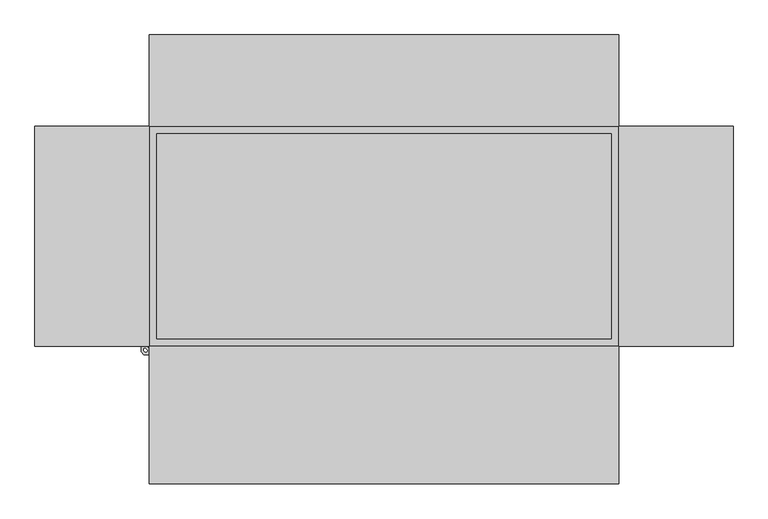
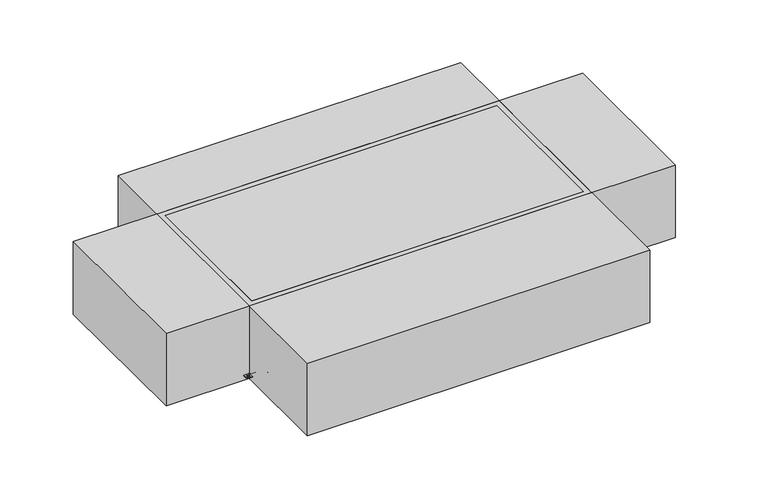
"""IFC4 building model written with IfcOpenShell, lengths in millimetres: proxy geometry, EMC_VEN_CLEVA 2.0_Right_V2 : CLEVA 1500 2.0 Right."""

from ifc_helpers import new_model, si_unit, frame, origin, origin_with_axes, place, context, project, spatial, polyline, circle_curve, ellipse_curve, outline, extrude, faceted_brep, source, transform, mapped, element, save
from ifc_brep_helpers import plane_surface, cylinder_surface, revolved_surface, advanced_brep


def mechanical_equipment_6676021b(model_context):
    return source(origin(), model_context, "Body", "SolidModel", [
        advanced_brep(
        [(-1030.9879885, -365.1499884, 32.4276212), (-1025.0, -365.1499884, 26.4156337), (-1025.0, -365.1499884, 1.8540092), (-1022.9960038, -365.1499884, -0.149987), (-998.0023908, -365.1499884, -0.149987), (-998.0023908, -365.1499884, -3.149981), (-1021.9879811, -365.1499884, -3.149981), (-1027.9999806, -365.1499884, 2.850007), (-1027.999994, -365.1499884, 26.4336329), (-1030.9939883, -365.1499884, 29.4276272), (-1049.1500152, -365.1499884, 29.4276272), (-1049.1500152, -365.1499884, 32.4276212), (-1061.1499912, -377.1499898, 29.4276272), (-1061.1499912, -504.1499898, 29.4276272), (-1061.1499912, -504.1499898, 32.4276212), (-1061.1499912, -377.1499898, 32.4276212), (-910.1500138, -485.9879885, 32.4276212), (-1030.9879885, -485.9879885, 32.4276212), (-1049.1500152, -516.1499912, 32.4276212), (-922.1500152, -516.1499912, 32.4276212), (-910.1500138, -504.1499898, 32.4276212), (-935.6500136, -507.6499948, 32.4276212), (-935.6380141, -495.6500068, 32.4276212), (-930.6619977, -495.6500068, 32.4276212), (-930.6499982, -507.6499948, 32.4276212), (-1044.8972231, -503.4322052, 32.4276212), (-1048.4413867, -499.888067, 32.4276212), (-1039.9515297, -491.4073661, 32.4276212), (-1036.4119618, -494.9469136, 32.4276212), (-1040.6500068, -390.6379887, 32.4276212), (-1052.6499948, -390.6499882, 32.4276212), (-1052.6500082, -385.6499982, 32.4276212), (-1040.6500068, -385.6379987, 32.4276212), (-1025.0, -480.0, 26.4156337), (-1025.0, -480.0, 1.8540092), (-1022.9960038, -477.9960038, -0.149987), (-910.1500138, -477.9960038, -0.149987), (-910.1500138, -453.0023908, -0.149987), (-998.0023908, -453.0023908, -0.149987), (-998.0023908, -453.0023908, -3.149981), (-910.1500138, -453.0023908, -3.149981), (-910.1500138, -476.9879811, -3.149981), (-1021.9879811, -476.9879811, -3.149981), (-1027.9999806, -482.9999806, 2.850007), (-1027.999994, -482.999994, 26.4336329), (-1030.9939883, -485.9939883, 29.4276272), (-910.1500138, -485.9939883, 29.4276272), (-910.1500138, -504.1499898, 29.4276272), (-922.1500152, -516.1499912, 29.4276272), (-1049.1500152, -516.1499912, 29.4276272), (-935.6380141, -495.6500068, 29.4276272), (-935.6500136, -507.6499948, 29.4276272), (-930.6499982, -507.6500082, 29.4276272), (-930.6619977, -495.6500068, 29.4276272), (-1048.4413867, -499.888067, 29.4276272), (-1044.8972231, -503.4322052, 29.4276272), (-1036.4119618, -494.9469136, 29.4276272), (-1039.9515195, -491.4073559, 29.4276272), (-1052.6499948, -390.6499882, 29.4276272), (-1040.6500068, -390.6379887, 29.4276272), (-1040.6500068, -385.6379987, 29.4276272), (-1052.6499948, -385.6499982, 29.4276272), (-910.1500138, -480.0, 1.8540092), (-910.1500138, -480.0, 26.4156337), (-910.1500138, -482.999994, 26.4336329), (-910.1500138, -482.999994, 2.850007)],
        [
            (0, 1, circle_curve(frame((-1030.999988, -365.1499884, 26.4276332), z_axis=(0.0, 1.0, 0.0), x_axis=(1.0, 0.0, 0.0)), 6.0)),
            (1, 2),
            (2, 3, circle_curve(frame((-1023.000004, -365.1499884, 1.850009), z_axis=(0.0, -1.0, 0.0), x_axis=(1.0, 0.0, 0.0)), 2.0)),
            (3, 4),
            (4, 5),
            (5, 6),
            (6, 7, circle_curve(frame((-1021.9999806, -365.1499884, 2.850007), z_axis=(0.0, 1.0, 0.0), x_axis=(1.0, 0.0, 0.0)), 6.0)),
            (7, 8),
            (8, 9, circle_curve(frame((-1030.999988, -365.1499884, 26.4276332), z_axis=(0.0, -1.0, 0.0), x_axis=(1.0, 0.0, 0.0)), 3.0)),
            (9, 10),
            (10, 11),
            (11, 0),
            (12, 13),
            (13, 14),
            (14, 15),
            (15, 12),
            (16, 17),
            (17, 0),
            (11, 15),
            (14, 18),
            (18, 19),
            (19, 20),
            (20, 16),
            (21, 22, circle_curve(frame((-935.6500136, -501.6499948, 32.4276212), z_axis=(0.0, 0.0, -1.0), x_axis=(1.0, 0.0, 0.0)), 6.0)),
            (22, 23),
            (23, 24, circle_curve(frame((-930.6499982, -501.6499948, 32.4276212), z_axis=(0.0, 0.0, -1.0), x_axis=(1.0, 0.0, 0.0)), 6.0)),
            (24, 21),
            (25, 26),
            (26, 27, circle_curve(frame((-1044.1941704, -495.6500068, 32.4276212), z_axis=(0.0, 0.0, -1.0), x_axis=(1.0, 0.0, 0.0)), 6.0)),
            (27, 28),
            (28, 25, circle_curve(frame((-1040.6500068, -499.194145, 32.4276212), z_axis=(0.0, 0.0, -1.0), x_axis=(1.0, 0.0, 0.0)), 6.0)),
            (29, 30, circle_curve(frame((-1046.6499948, -390.6499882, 32.4276212), z_axis=(0.0, 0.0, -1.0), x_axis=(1.0, 0.0, 0.0)), 6.0)),
            (30, 31),
            (31, 32, circle_curve(frame((-1046.6499948, -385.6499982, 32.4276212), z_axis=(0.0, 0.0, -1.0), x_axis=(1.0, 0.0, 0.0)), 6.0)),
            (32, 29),
            (17, 33, ellipse_curve(frame((-1030.999988, -485.999988, 26.4276332), z_axis=(-0.7071067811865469, 0.707106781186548, 0.0), x_axis=(0.7071067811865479, 0.7071067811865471, 0.0)), 8.4852814, 6.0)),
            (33, 1),
            (33, 34),
            (34, 2),
            (34, 35, ellipse_curve(frame((-1023.000004, -478.000004, 1.850009), z_axis=(0.7071067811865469, -0.707106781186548, 0.0), x_axis=(-0.7071067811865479, -0.7071067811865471, 0.0)), 2.8284271, 2.0)),
            (35, 3),
            (35, 36),
            (36, 37),
            (37, 38),
            (38, 4),
            (38, 39),
            (39, 5),
            (39, 40),
            (40, 41),
            (41, 42),
            (42, 6),
            (42, 43, ellipse_curve(frame((-1021.9999806, -476.9999806, 2.850007), z_axis=(-0.7071067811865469, 0.707106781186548, 0.0), x_axis=(0.7071067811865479, 0.7071067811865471, 0.0)), 8.4852814, 6.0)),
            (43, 7),
            (43, 44),
            (44, 8),
            (44, 45, ellipse_curve(frame((-1030.999988, -485.999988, 26.4276332), z_axis=(0.7071067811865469, -0.707106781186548, 0.0), x_axis=(-0.7071067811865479, -0.7071067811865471, 0.0)), 4.2426407, 3.0)),
            (45, 9),
            (45, 46),
            (46, 47),
            (47, 48),
            (48, 49),
            (49, 13),
            (12, 10),
            (50, 51, circle_curve(frame((-935.6500136, -501.6499948, 29.4276272), z_axis=(0.0, 0.0, 1.0), x_axis=(1.0, 0.0, 0.0)), 6.0)),
            (51, 52),
            (52, 53, circle_curve(frame((-930.6499982, -501.6499948, 29.4276272), z_axis=(0.0, 0.0, 1.0), x_axis=(1.0, 0.0, 0.0)), 6.0)),
            (53, 50),
            (54, 55),
            (55, 56, circle_curve(frame((-1040.6500068, -499.194145, 29.4276272), z_axis=(0.0, 0.0, 1.0), x_axis=(1.0, 0.0, 0.0)), 6.0)),
            (56, 57),
            (57, 54, circle_curve(frame((-1044.1941704, -495.6500068, 29.4276272), z_axis=(0.0, 0.0, 1.0), x_axis=(1.0, 0.0, 0.0)), 6.0)),
            (58, 59, circle_curve(frame((-1046.6499948, -390.6499882, 29.4276272), z_axis=(0.0, 0.0, 1.0), x_axis=(1.0, 0.0, 0.0)), 6.0)),
            (59, 60),
            (60, 61, circle_curve(frame((-1046.6499948, -385.6499982, 29.4276272), z_axis=(0.0, 0.0, 1.0), x_axis=(1.0, 0.0, 0.0)), 6.0)),
            (61, 58),
            (36, 62, circle_curve(frame((-910.1500138, -478.000004, 1.850009), z_axis=(-1.0, 0.0, 0.0), x_axis=(0.0, 1.0, 0.0)), 2.0)),
            (62, 63),
            (63, 16, circle_curve(frame((-910.1500138, -485.999988, 26.4276332), z_axis=(1.0, 0.0, 0.0), x_axis=(0.0, 1.0, 0.0)), 6.0)),
            (20, 47),
            (46, 64, circle_curve(frame((-910.1500138, -485.999988, 26.4276332), z_axis=(-1.0, 0.0, 0.0), x_axis=(0.0, 1.0, 0.0)), 3.0)),
            (64, 65),
            (65, 41, circle_curve(frame((-910.1500138, -476.9999806, 2.850007), z_axis=(1.0, 0.0, 0.0), x_axis=(0.0, 1.0, 0.0)), 6.0)),
            (40, 37),
            (18, 49),
            (48, 19),
            (63, 33),
            (62, 34),
            (65, 43),
            (64, 44),
            (50, 22),
            (21, 51),
            (24, 52),
            (23, 53),
            (54, 26),
            (25, 55),
            (28, 56),
            (27, 57),
            (58, 30),
            (29, 59),
            (32, 60),
            (31, 61),
        ],
        [
            plane_surface(frame((-1025.0, -365.1499884, 0.0), z_axis=(0.0, 1.0, 0.0), x_axis=(0.0, 0.0, 1.0))),
            plane_surface(frame((-1061.1499912, -365.1499884, 29.4276272), z_axis=(-1.0, 0.0, 0.0), x_axis=(0.0, -1.0, 0.0))),
            plane_surface(frame((-1061.1499912, -365.1499884, 32.4276212), z_axis=(0.0, 0.0, 1.0), x_axis=(0.0, -1.0, 0.0))),
            cylinder_surface(frame((-1030.999988, -365.1499884, 26.4276332), z_axis=(0.0, 1.0, 0.0), x_axis=(1.0, 0.0, 0.0)), 6.0),
            plane_surface(frame((-1025.0, -365.1499884, 26.4156337), z_axis=(1.0, 0.0, 0.0), x_axis=(0.0, -1.0, 0.0))),
            revolved_surface(polyline([(-1021.000004, -480.00000398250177, 1.850009), (-1021.000004, -365.1499884, 1.850009)]), (-1023.000004, -365.1499884, 1.850009), (0.0, -1.0, 0.0)),
            plane_surface(frame((-1022.9960038, -365.1499884, -0.149987), z_axis=(0.0, 0.0, 1.0), x_axis=(0.0, -1.0, 0.0))),
            plane_surface(frame((-998.0023908, -365.1499884, -0.149987), z_axis=(1.0, 0.0, 0.0), x_axis=(0.0, -1.0, 0.0))),
            plane_surface(frame((-998.0023908, -365.1499884, -3.149981), z_axis=(0.0, 0.0, -1.0), x_axis=(0.0, -1.0, 0.0))),
            cylinder_surface(frame((-1021.9999806, -365.1499884, 2.850007), z_axis=(0.0, 1.0, 0.0), x_axis=(1.0, 0.0, 0.0)), 6.0),
            plane_surface(frame((-1027.999994, -365.1499884, 2.850007), z_axis=(-1.0, 0.0, 0.0), x_axis=(0.0, -1.0, 0.0))),
            revolved_surface(polyline([(-1027.999988, -488.999988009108, 26.4276332), (-1027.999988, -365.1499884, 26.4276332)]), (-1030.999988, -365.1499884, 26.4276332), (0.0, -1.0, 0.0)),
            plane_surface(frame((-1030.9939883, -365.1499884, 29.4276272), z_axis=(0.0, 0.0, -1.0), x_axis=(0.0, -1.0, 0.0))),
            plane_surface(frame((-910.1500138, -480.0, 0.0), z_axis=(1.0, 0.0, 0.0), x_axis=(0.0, 0.0, 1.0))),
            plane_surface(frame((-1061.1499912, -516.1499912, 29.4276272), z_axis=(0.0, -1.0, 0.0), x_axis=(1.0, 0.0, 0.0))),
            cylinder_surface(frame((-1025.0, -485.999988, 26.4276332), z_axis=(-1.0, 0.0, 0.0), x_axis=(0.0, 1.0, 0.0)), 6.0),
            plane_surface(frame((-1025.0, -480.0, 26.4156337), z_axis=(0.0, 1.0, 0.0), x_axis=(1.0, 0.0, 0.0))),
            revolved_surface(polyline([(-910.1500138, -476.000004, 1.850009), (-1025.0000039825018, -476.000004, 1.850009)]), (-1025.0, -478.000004, 1.850009), (1.0, 0.0, 0.0)),
            plane_surface(frame((-998.0023908, -453.0023908, -0.149987), z_axis=(0.0, 1.0, 0.0), x_axis=(1.0, 0.0, 0.0))),
            cylinder_surface(frame((-1025.0, -476.9999806, 2.850007), z_axis=(-1.0, 0.0, 0.0), x_axis=(0.0, 1.0, 0.0)), 6.0),
            plane_surface(frame((-1027.999994, -482.999994, 2.850007), z_axis=(0.0, -1.0, 0.0), x_axis=(1.0, 0.0, 0.0))),
            revolved_surface(polyline([(-910.1500138, -482.999988, 26.4276332), (-1033.9999880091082, -482.999988, 26.4276332)]), (-1025.0, -485.999988, 26.4276332), (1.0, 0.0, 0.0)),
            plane_surface(frame((-1061.1499912, -377.1499898, 250.0), z_axis=(-0.7071075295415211, 0.7071060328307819, 0.0), x_axis=(0.0, 0.0, -1.0))),
            plane_surface(frame((-898.432152, -492.432128, 250.0), z_axis=(0.7071067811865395, -0.7071067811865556, 0.0), x_axis=(0.0, 0.0, -1.0))),
            plane_surface(frame((-1049.1500152, -516.1499912, 250.0), z_axis=(-0.7071075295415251, -0.7071060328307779, 0.0), x_axis=(0.0, 0.0, -1.0))),
            revolved_surface(polyline([(-929.6500136, -501.6499948, 32.4276212), (-929.6500136, -501.6499948, 29.4276272)]), (-935.6500136, -501.6499948, 0.0), (0.0, 0.0, 1.0)),
            plane_surface(frame((-935.6500136, -507.6500082, 250.0), z_axis=(0.0, 1.0, 0.0), x_axis=(0.0, 0.0, -1.0))),
            revolved_surface(polyline([(-924.6499982, -501.6499948, 32.4276212), (-924.6499982, -501.6499948, 29.4276272)]), (-930.6499982, -501.6499948, 0.0), (0.0, 0.0, 1.0)),
            plane_surface(frame((-930.6619977, -495.6500068, 250.0), z_axis=(0.0, -1.0, 0.0), x_axis=(0.0, 0.0, -1.0))),
            plane_surface(frame((-1048.4413867, -499.888067, 250.0), z_axis=(0.7071042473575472, 0.7071093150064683, 0.0), x_axis=(0.0, 0.0, -1.0))),
            revolved_surface(polyline([(-1034.6500068, -499.194145, 32.4276212), (-1034.6500068, -499.194145, 29.4276272)]), (-1040.6500068, -499.194145, 0.0), (0.0, 0.0, 1.0)),
            plane_surface(frame((-1036.4119618, -494.9469136, 250.0), z_axis=(-0.7071067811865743, -0.7071067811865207, 0.0), x_axis=(0.0, 0.0, -1.0))),
            revolved_surface(polyline([(-1038.1941704, -495.6500068, 32.4276212), (-1038.1941704, -495.6500068, 29.4276272)]), (-1044.1941704, -495.6500068, 0.0), (0.0, 0.0, 1.0)),
            revolved_surface(polyline([(-1040.6499948, -390.6499882, 32.4276212), (-1040.6499948, -390.6499882, 29.4276272)]), (-1046.6499948, -390.6499882, 0.0), (0.0, 0.0, 1.0)),
            plane_surface(frame((-1040.6500068, -390.6379887, 250.0), z_axis=(-1.0, 0.0, 0.0), x_axis=(0.0, 0.0, -1.0))),
            revolved_surface(polyline([(-1040.6499948, -385.6499982, 32.4276212), (-1040.6499948, -385.6499982, 29.4276272)]), (-1046.6499948, -385.6499982, 0.0), (0.0, 0.0, 1.0)),
            plane_surface(frame((-1052.6500082, -385.6499982, 250.0), z_axis=(1.0, 0.0, 0.0), x_axis=(0.0, 0.0, -1.0))),
        ],
        [
            (0, [[1, 2, 3, 4, 5, 6, 7, 8, 9, 10, 11, 12]]),
            (1, [[13, 14, 15, 16]]),
            (2, [[17, 18, -12, 19, -15, 20, 21, 22, 23], [24, 25, 26, 27], [28, 29, 30, 31], [32, 33, 34, 35]]),
            (3, [[-1, -18, 36, 37]]),
            (4, [[-2, -37, 38, 39]]),
            (5, [[-3, -39, 40, 41]]),
            (6, [[-4, -41, 42, 43, 44, 45]]),
            (7, [[-5, -45, 46, 47]]),
            (8, [[-6, -47, 48, 49, 50, 51]]),
            (9, [[-7, -51, 52, 53]]),
            (10, [[-8, -53, 54, 55]]),
            (11, [[-9, -55, 56, 57]]),
            (12, [[-57, 58, 59, 60, 61, 62, -13, 63, -10], [64, 65, 66, 67], [68, 69, 70, 71], [72, 73, 74, 75]]),
            (13, [[-43, 76, 77, 78, -23, 79, -59, 80, 81, 82, -49, 83]]),
            (14, [[-21, 84, -61, 85]]),
            (15, [[-17, -78, 86, -36]]),
            (16, [[-38, -86, -77, 87]]),
            (17, [[-40, -87, -76, -42]]),
            (18, [[-44, -83, -48, -46]]),
            (19, [[-50, -82, 88, -52]]),
            (20, [[-54, -88, -81, 89]]),
            (21, [[-56, -89, -80, -58]]),
            (22, [[-11, -63, -16, -19]]),
            (23, [[-22, -85, -60, -79]]),
            (24, [[-14, -62, -84, -20]]),
            (25, [[90, -24, 91, -64]]),
            (26, [[-91, -27, 92, -65]]),
            (27, [[-92, -26, 93, -66]]),
            (28, [[-90, -67, -93, -25]]),
            (29, [[94, -28, 95, -68]]),
            (30, [[-95, -31, 96, -69]]),
            (31, [[-96, -30, 97, -70]]),
            (32, [[-94, -71, -97, -29]]),
            (33, [[98, -32, 99, -72]]),
            (34, [[-99, -35, 100, -73]]),
            (35, [[-100, -34, 101, -74]]),
            (36, [[-98, -75, -101, -33]]),
        ],
    ),
        extrude(outline(polyline([(1525.0, -480.0), (1025.0, -480.0), (1025.0, 480.0), (1525.0, 480.0), (1525.0, -480.0)])), origin_with_axes(), (0.0, 0.0, 1.0), 460.0),
        extrude(outline(polyline([(-1525.0, 480.0), (-1025.0, 480.0), (-1025.0, -480.0), (-1525.0, -480.0), (-1525.0, 480.0)])), origin_with_axes(), (0.0, 0.0, 1.0), 460.0),
        extrude(outline(polyline([(-1025.0, -1080.0), (-1025.0, -480.0), (1025.0, -480.0), (1025.0, -1080.0), (-1025.0, -1080.0)])), origin_with_axes(), (0.0, 0.0, 1.0), 460.0),
        extrude(outline(polyline([(1025.0, 880.0), (1025.0, 480.0), (-1025.0, 480.0), (-1025.0, 880.0), (1025.0, 880.0)])), origin_with_axes(), (0.0, 0.0, 1.0), 460.0),
        extrude(outline(polyline([(75.5, -480.0), (75.5, -614.0), (-424.5, -614.0), (-424.5, -480.0), (75.5, -480.0)])), frame((0.0, 0.0, 169.0), z_axis=(0.0, 0.0, 1.0), x_axis=(1.0, 0.0, 0.0)), (0.0, 0.0, 1.0), 225.0),
        extrude(outline(polyline([(562.0, -480.0), (562.0, -460.0), (993.0, -460.0), (993.0, -480.0), (562.0, -480.0)])), frame((0.0, 0.0, 31.0), z_axis=(0.0, 0.0, 1.0), x_axis=(1.0, 0.0, 0.0)), (0.0, 0.0, 1.0), 398.0),
        extrude(outline(polyline([(-562.0, -480.0), (-993.0, -480.0), (-993.0, -460.0), (-562.0, -460.0), (-562.0, -480.0)])), frame((0.0, 0.0, 31.0), z_axis=(0.0, 0.0, 1.0), x_axis=(1.0, 0.0, 0.0)), (0.0, 0.0, 1.0), 398.0),
        extrude(outline(polyline([(562.0, 480.0), (993.0, 480.0), (993.0, 460.0), (562.0, 460.0), (562.0, 480.0)])), frame((0.0, 0.0, 31.0), z_axis=(0.0, 0.0, 1.0), x_axis=(1.0, 0.0, 0.0)), (0.0, 0.0, 1.0), 398.0),
        extrude(outline(polyline([(-562.0, 480.0), (-562.0, 460.0), (-993.0, 460.0), (-993.0, 480.0), (-562.0, 480.0)])), frame((0.0, 0.0, 31.0), z_axis=(0.0, 0.0, 1.0), x_axis=(1.0, 0.0, 0.0)), (0.0, 0.0, 1.0), 398.0),
        extrude(outline(polyline([(-1025.0, 17.0), (-1025.0, 448.0), (-1005.0, 448.0), (-1005.0, 17.0), (-1025.0, 17.0)])), frame((0.0, 0.0, 31.0), z_axis=(0.0, 0.0, 1.0), x_axis=(1.0, 0.0, 0.0)), (0.0, 0.0, 1.0), 398.0),
        extrude(outline(polyline([(-1025.0, -17.0), (-1005.0, -17.0), (-1005.0, -448.0), (-1025.0, -448.0), (-1025.0, -17.0)])), frame((0.0, 0.0, 31.0), z_axis=(0.0, 0.0, 1.0), x_axis=(1.0, 0.0, 0.0)), (0.0, 0.0, 1.0), 398.0),
        extrude(outline(polyline([(1025.0, 17.0), (1005.0, 17.0), (1005.0, 448.0), (1025.0, 448.0), (1025.0, 17.0)])), frame((0.0, 0.0, 31.0), z_axis=(0.0, 0.0, 1.0), x_axis=(1.0, 0.0, 0.0)), (0.0, 0.0, 1.0), 398.0),
        extrude(outline(polyline([(1025.0, -17.0), (1025.0, -448.0), (1005.0, -448.0), (1005.0, -17.0), (1025.0, -17.0)])), frame((0.0, 0.0, 31.0), z_axis=(0.0, 0.0, 1.0), x_axis=(1.0, 0.0, 0.0)), (0.0, 0.0, 1.0), 398.0),
        extrude(outline(polyline([(993.0, -448.0), (-993.0, -448.0), (-993.0, 448.0), (993.0, 448.0), (993.0, -448.0)])), frame((0.0, 0.0, 439.5), z_axis=(0.0, 0.0, 1.0), x_axis=(1.0, 0.0, 0.0)), (0.0, 0.0, 1.0), 20.5),
        faceted_brep([(1025.0, 480.0, 460.0), (-1025.0, 480.0, 460.0), (-1025.0, -480.0, 460.0), (1025.0, -480.0, 460.0), (993.0, -448.0, 460.0), (-993.0, -448.0, 460.0), (-993.0, 448.0, 460.0), (993.0, 448.0, 460.0), (-993.0, 448.0, 429.0), (-993.0, 480.0, 429.0), (-562.0, 480.0, 429.0), (-562.0, 448.0, 429.0), (993.0, 480.0, 429.0), (993.0, 448.0, 429.0), (562.0, 448.0, 429.0), (562.0, 480.0, 429.0), (-993.0, -480.0, 429.0), (-993.0, -448.0, 429.0), (-562.0, -448.0, 429.0), (-562.0, -480.0, 429.0), (993.0, -448.0, 429.0), (993.0, -480.0, 429.0), (562.0, -480.0, 429.0), (562.0, -448.0, 429.0), (1025.0, -17.0, 429.0), (1025.0, -448.0, 429.0), (993.0, -17.0, 429.0), (1025.0, 448.0, 429.0), (1025.0, 17.0, 429.0), (993.0, 17.0, 429.0), (-1025.0, 17.0, 429.0), (-1025.0, 448.0, 429.0), (-993.0, 17.0, 429.0), (-1025.0, -448.0, 429.0), (-1025.0, -17.0, 429.0), (-993.0, -17.0, 429.0), (560.0, 448.0, 429.0), (-560.0, 448.0, 429.0), (-560.0, 480.0, 429.0), (560.0, 480.0, 429.0), (-560.0, -448.0, 429.0), (560.0, -448.0, 429.0), (560.0, -480.0, 429.0), (-560.0, -480.0, 429.0), (1025.0, 480.0, 0.0), (-1025.0, 480.0, 0.0), (562.0, 480.0, 31.0), (993.0, 480.0, 31.0), (-560.0, 480.0, 31.0), (560.0, 480.0, 31.0), (-993.0, 480.0, 31.0), (-562.0, 480.0, 31.0), (-1025.0, -480.0, 0.0), (-1025.0, -448.0, 31.0), (-1025.0, -17.0, 31.0), (-1025.0, 448.0, 31.0), (-1025.0, 17.0, 31.0), (1025.0, -480.0, 0.0), (-562.0, -480.0, 31.0), (-993.0, -480.0, 31.0), (560.0, -480.0, 31.0), (-560.0, -480.0, 31.0), (993.0, -480.0, 31.0), (562.0, -480.0, 31.0), (1025.0, 448.0, 31.0), (1025.0, 17.0, 31.0), (1025.0, -448.0, 31.0), (1025.0, -17.0, 31.0), (562.0, -448.0, 31.0), (993.0, -448.0, 31.0), (993.0, -448.0, 0.0), (-993.0, -448.0, 0.0), (-993.0, -448.0, 31.0), (-562.0, -448.0, 31.0), (-560.0, -448.0, 31.0), (560.0, -448.0, 31.0), (-993.0, -17.0, 31.0), (-993.0, 448.0, 0.0), (-993.0, 448.0, 31.0), (-993.0, 17.0, 31.0), (-562.0, 448.0, 31.0), (993.0, 448.0, 0.0), (993.0, 448.0, 31.0), (562.0, 448.0, 31.0), (560.0, 448.0, 31.0), (-560.0, 448.0, 31.0), (993.0, 17.0, 31.0), (993.0, -17.0, 31.0)], [[[0, 1, 2, 3], [4, 5, 6, 7]], [[8, 9, 10, 11]], [[12, 13, 14, 15]], [[16, 17, 18, 19]], [[20, 21, 22, 23]], [[24, 25, 20, 26]], [[27, 28, 29, 13]], [[30, 31, 8, 32]], [[33, 34, 35, 17]], [[36, 37, 38, 39]], [[40, 41, 42, 43]], [[1, 0, 44, 45], [12, 15, 46, 47], [39, 38, 48, 49], [9, 50, 51, 10]], [[2, 1, 45, 52], [33, 53, 54, 34], [55, 31, 30, 56]], [[3, 2, 52, 57], [16, 19, 58, 59], [43, 42, 60, 61], [21, 62, 63, 22]], [[0, 3, 57, 44], [27, 64, 65, 28], [66, 25, 24, 67]], [[5, 4, 20, 23, 68, 69, 70, 71, 72, 73, 18, 17], [40, 74, 75, 41]], [[6, 5, 17, 35, 76, 72, 71, 77, 78, 79, 32, 8]], [[7, 6, 8, 11, 80, 78, 77, 81, 82, 83, 14, 13], [36, 84, 85, 37]], [[4, 7, 13, 29, 86, 82, 81, 70, 69, 87, 26, 20]], [[53, 33, 17, 72]], [[50, 9, 8, 78]], [[78, 8, 31, 55]], [[12, 47, 82, 13]], [[72, 17, 16, 59]], [[25, 66, 69, 20]], [[62, 21, 20, 69]], [[64, 27, 13, 82]], [[55, 56, 79, 78]], [[66, 67, 87, 69]], [[75, 74, 61, 60]], [[72, 76, 54, 53]], [[85, 84, 49, 48]], [[82, 86, 65, 64]], [[50, 78, 80, 51]], [[82, 47, 46, 83]], [[72, 59, 58, 73]], [[62, 69, 68, 63]], [[44, 57, 52, 45], [70, 81, 77, 71]], [[32, 79, 56, 30]], [[34, 54, 76, 35]], [[26, 87, 67, 24]], [[86, 29, 28, 65]], [[18, 73, 58, 19]], [[14, 83, 46, 15]], [[48, 38, 37, 85]], [[39, 49, 84, 36]], [[10, 51, 80, 11]], [[74, 40, 43, 61]], [[22, 63, 68, 23]], [[60, 42, 41, 75]]]),
        extrude(outline(polyline([(560.0, -460.0), (560.0, -480.0), (-560.0, -480.0), (-560.0, -460.0), (560.0, -460.0)])), frame((0.0, 0.0, 31.0), z_axis=(0.0, 0.0, 1.0), x_axis=(1.0, 0.0, 0.0)), (0.0, 0.0, 1.0), 398.0),
        extrude(outline(polyline([(560.0, 480.0), (560.0, 460.0), (-560.0, 460.0), (-560.0, 480.0), (560.0, 480.0)])), frame((0.0, 0.0, 31.0), z_axis=(0.0, 0.0, 1.0), x_axis=(1.0, 0.0, 0.0)), (0.0, 0.0, 1.0), 398.0),
        extrude(outline(polyline([(465.0, -448.0), (-465.0, -448.0), (-465.0, 448.0), (465.0, 448.0), (465.0, -448.0)])), origin_with_axes(), (0.0, 0.0, 1.0), 20.0),
        extrude(outline(polyline([(-495.0, -50.0), (-993.0, -50.0), (-993.0, -20.0), (-495.0, -20.0), (-495.0, -50.0)])), origin_with_axes(), (0.0, 0.0, 1.0), 31.0),
        extrude(outline(polyline([(495.0, -20.0), (993.0, -20.0), (993.0, -50.0), (495.0, -50.0), (495.0, -20.0)])), origin_with_axes(), (0.0, 0.0, 1.0), 31.0),
        extrude(outline(polyline([(-495.0, 448.0), (-465.0, 448.0), (-465.0, -448.0), (-495.0, -448.0), (-495.0, 448.0)])), origin_with_axes(), (0.0, 0.0, 1.0), 31.0),
        extrude(outline(polyline([(495.0, 448.0), (495.0, -448.0), (465.0, -448.0), (465.0, 448.0), (495.0, 448.0)])), origin_with_axes(), (0.0, 0.0, 1.0), 31.0),
    ])


if __name__ == "__main__":
    model = new_model("IFC4")
    model_context = context("Model", 3, world=origin())
    ifc_project = project(units=[si_unit("LENGTHUNIT", "METRE", prefix="MILLI")], contexts=[model_context])
    site = spatial("IfcSite", under=ifc_project)
    building = spatial("IfcBuilding", under=site)
    placement = place(None, origin())
    mechanical_equipment_shape = mechanical_equipment_6676021b(model_context)
    element("IfcBuildingElementProxy", 1, Name="EMC_VEN_CLEVA 2.0_Right_V2 : CLEVA 1500 2.0 Right", ObjectType="EMC_VEN_CLEVA 2.0_Right_V2 : CLEVA 1500 2.0 Right", at=placement, inside=building, context=model_context, shape_type="MappedRepresentation", body=[
        mapped(mechanical_equipment_shape, transform((0.0, 0.0, 0.0), x_axis=(1.0, 0.0, 0.0), y_axis=(0.0, 1.0, 0.0), z_axis=(0.0, 0.0, 1.0))),
    ])
    save(model, "model.ifc")
